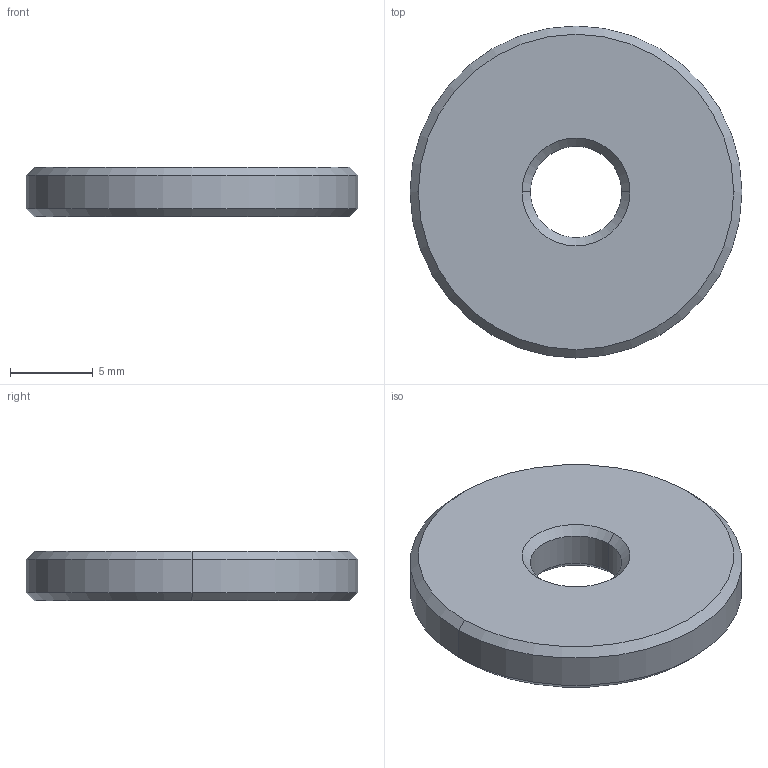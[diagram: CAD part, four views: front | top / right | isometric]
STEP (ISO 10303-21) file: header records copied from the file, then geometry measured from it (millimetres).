
FILE_DESCRIPTION (( 'STEP AP214' ), '1' );
FILE_NAME ('AGZ061.06.03_V1挡片.STEP', '2021-09-24T02:06:26', ( '微软中国' ), ( 'Microsoft' ), 'SwSTEP 2.0', 'SolidWorks 2017', '' );
FILE_SCHEMA (( 'AUTOMOTIVE_DESIGN' ));
Length unit declared in the file: millimetre
Products named in the file (1): AGZ061.06.03_V1結え
Bounding box: 20 x 20 x 3 mm (x, y, z)
Volume: 851.2 mm3; surface area: 774.2 mm2
Topology: 1 solids, 1 shells, 14 faces, 28 edges, 16 vertices
Faces by surface type: cone 8, cylinder 4, plane 2
Entity records: 402 total; most frequent: DIRECTION 74, CARTESIAN_POINT 59, ORIENTED_EDGE 56, AXIS2_PLACEMENT_3D 31, EDGE_CURVE 28, EDGE_LOOP 16, CIRCLE 16, VERTEX_POINT 16
